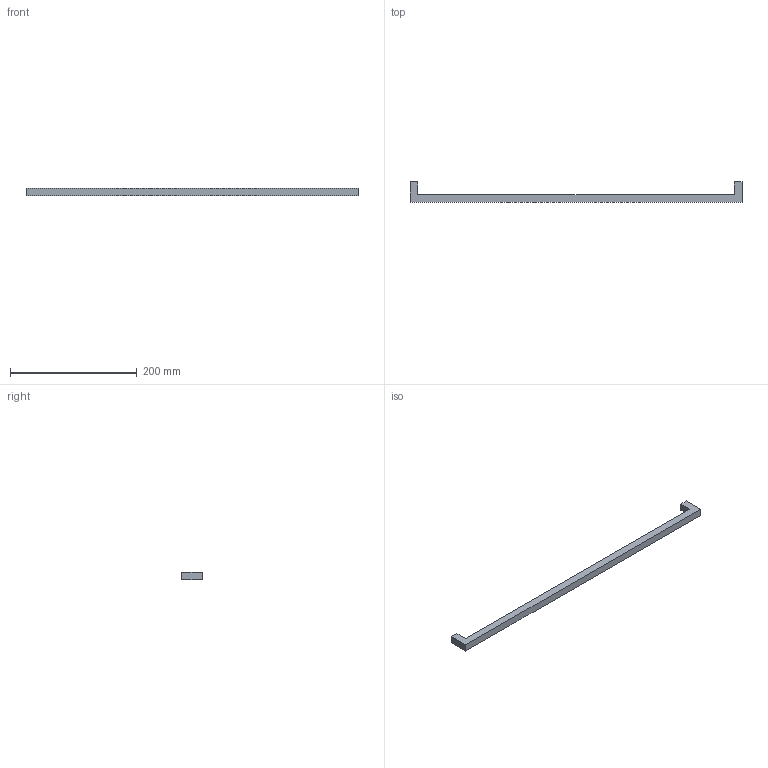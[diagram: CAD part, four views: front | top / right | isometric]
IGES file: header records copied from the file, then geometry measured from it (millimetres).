
Start section: Data from Parasolid IGES Translator 15.0.47, Copyright(c) 2006 Siemens P LM Software. All Rights Reserved.
Global section: file name: 9207351.igs; native system:  By UGS Corp.; preprocessor: XPlus GENERIC/IGES 3.0; author: Noname; organization: Noname; date: 20151215.135633; units: millimetre
Bounding box: 524 x 32 x 12 mm (x, y, z)
Surface area: 27611.3 mm2 (no closed solid volume)
Topology: 0 solids, 0 shells, 14 faces, 60 edges, 58 vertices
Faces by surface type: extrusion 12, revolution 2
